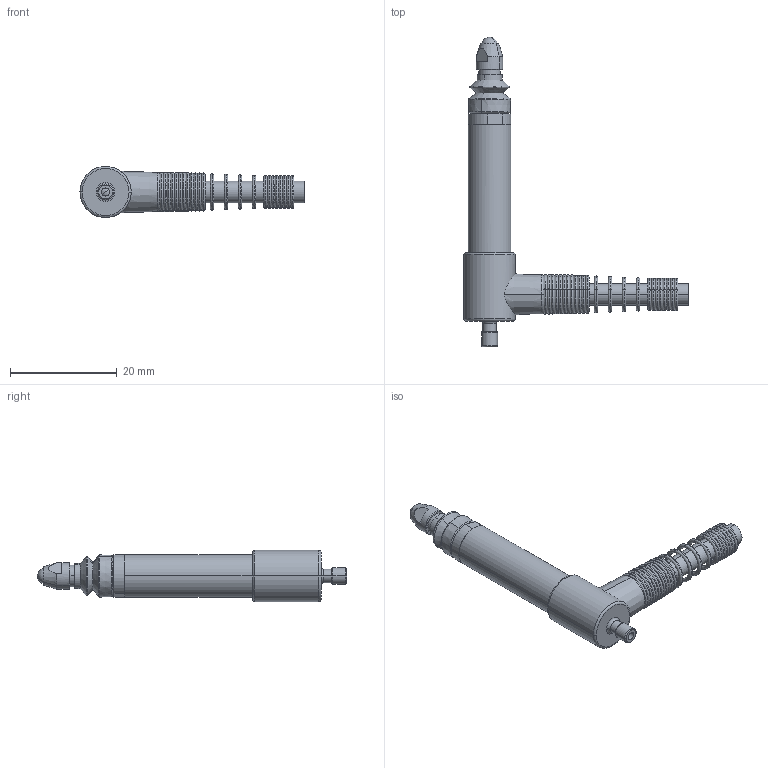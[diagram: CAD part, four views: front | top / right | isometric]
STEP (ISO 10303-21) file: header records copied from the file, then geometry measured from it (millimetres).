
FILE_DESCRIPTION (( 'STEP AP214' ), '1' );
FILE_NAME ('DP-S2V_exterior.STEP', '2015-10-07T10:30:59', ( 'ysgoodman' ), ( '' ), 'SwSTEP 2.0', 'SolidWorks 2014', '' );
FILE_SCHEMA (( 'AUTOMOTIVE_DESIGN' ));
Length unit declared in the file: millimetre
Products named in the file (1): DP-S2V_exterior
Bounding box: 42 x 57.95 x 9.6 mm (x, y, z)
Surface area: 3362.5 mm2 (no closed solid volume)
Topology: 0 solids, 36 shells, 202 faces, 449 edges, 263 vertices
Faces by surface type: torus 122, cylinder 41, plane 23, cone 14, sphere 2
Entity records: 8002 total; most frequent: DIRECTION 1206, CARTESIAN_POINT 1053, ORIENTED_EDGE 832, AXIS2_PLACEMENT_3D 567, EDGE_CURVE 444, CIRCLE 364, VERTEX_POINT 260, EDGE_LOOP 218
